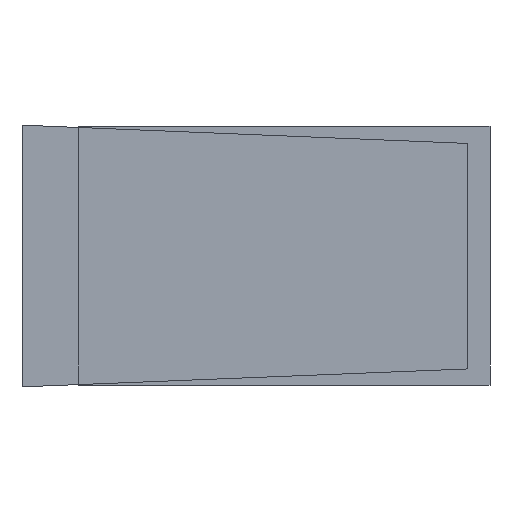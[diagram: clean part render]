
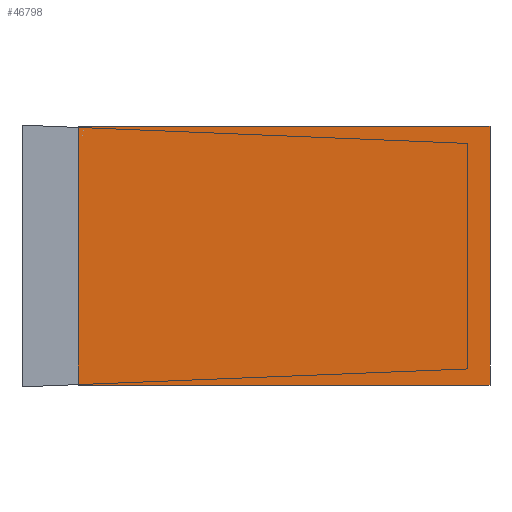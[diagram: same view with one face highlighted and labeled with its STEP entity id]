
A CAD part, top view. The second image highlights one B-rep face of the part: STEP entity #46798.
In plain terms, the highlighted planar face has unit normal (0, 0, 1).
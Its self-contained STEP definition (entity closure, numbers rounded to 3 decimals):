
#1389 = DIRECTION ( 'NONE',  ( -1., 0., 0. ) ) ;
#1769 = LINE ( 'NONE', #41207, #16313 ) ;
#4404 = DIRECTION ( 'NONE',  ( 0., 1., 0. ) ) ;
#5173 = CARTESIAN_POINT ( 'NONE',  ( -1680.035, -756.059, 2305.385 ) ) ;
#8689 = CARTESIAN_POINT ( 'NONE',  ( 704.718, -6.059, 2305.385 ) ) ;
#9186 = EDGE_CURVE ( 'NONE', #56193, #44871, #40041, .T. ) ;
#9504 = CARTESIAN_POINT ( 'NONE',  ( 704.718, -521.315, 2305.385 ) ) ;
#10438 = ORIENTED_EDGE ( 'NONE', *, *, #45742, .F. ) ;
#11281 = ORIENTED_EDGE ( 'NONE', *, *, #69390, .F. ) ;
#11995 = VECTOR ( 'NONE', #1389, 1000. ) ;
#12541 = ORIENTED_EDGE ( 'NONE', *, *, #9186, .F. ) ;
#16313 = VECTOR ( 'NONE', #69902, 1000. ) ;
#16746 = ORIENTED_EDGE ( 'NONE', *, *, #57971, .F. ) ;
#16844 = DIRECTION ( 'NONE',  ( 0., 0., -1. ) ) ;
#18894 = CARTESIAN_POINT ( 'NONE',  ( -114.696, -521.315, 2305.385 ) ) ;
#22105 = CARTESIAN_POINT ( 'NONE',  ( -934.111, 509.197, 2305.385 ) ) ;
#23730 = VECTOR ( 'NONE', #4404, 1000. ) ;
#25855 = EDGE_LOOP ( 'NONE', ( #12541, #11281, #16746, #10438 ) ) ;
#30025 = CARTESIAN_POINT ( 'NONE',  ( -934.111, -521.315, 2305.385 ) ) ;
#30117 = FACE_OUTER_BOUND ( 'NONE', #25855, .T. ) ;
#32181 = DIRECTION ( 'NONE',  ( 0., -1., 0. ) ) ;
#36679 = CARTESIAN_POINT ( 'NONE',  ( 704.718, 509.197, 2305.385 ) ) ;
#40041 = LINE ( 'NONE', #68540, #23730 ) ;
#41207 = CARTESIAN_POINT ( 'NONE',  ( -1680.035, 509.197, 2305.385 ) ) ;
#42764 = LINE ( 'NONE', #18894, #11995 ) ;
#44343 = VECTOR ( 'NONE', #32181, 1000. ) ;
#44871 = VERTEX_POINT ( 'NONE', #22105 ) ;
#45650 = DIRECTION ( 'NONE',  ( 0., 1., 0. ) ) ;
#45742 = EDGE_CURVE ( 'NONE', #44871, #72817, #1769, .T. ) ;
#46640 = VERTEX_POINT ( 'NONE', #9504 ) ;
#46798 = ADVANCED_FACE ( 'NONE', ( #30117 ), #74347, .F. ) ;
#49206 = AXIS2_PLACEMENT_3D ( 'NONE', #5173, #16844, #45650 ) ;
#56193 = VERTEX_POINT ( 'NONE', #30025 ) ;
#57971 = EDGE_CURVE ( 'NONE', #72817, #46640, #68918, .T. ) ;
#68540 = CARTESIAN_POINT ( 'NONE',  ( -934.111, -6.059, 2305.385 ) ) ;
#68918 = LINE ( 'NONE', #8689, #44343 ) ;
#69390 = EDGE_CURVE ( 'NONE', #46640, #56193, #42764, .T. ) ;
#69902 = DIRECTION ( 'NONE',  ( 1., 0., 0. ) ) ;
#72817 = VERTEX_POINT ( 'NONE', #36679 ) ;
#74347 = PLANE ( 'NONE',  #49206 ) ;
